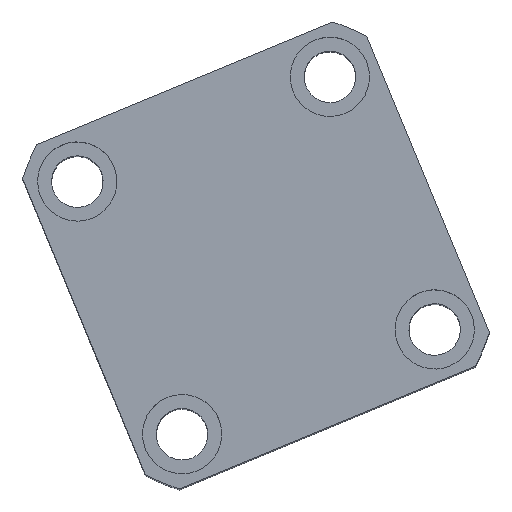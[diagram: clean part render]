
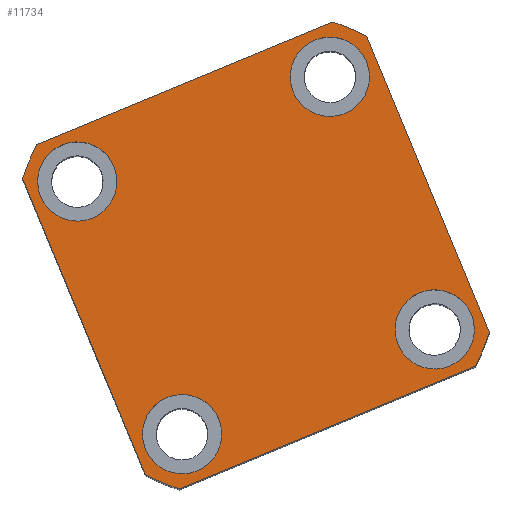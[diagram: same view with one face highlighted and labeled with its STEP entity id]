
A CAD part, top view. The second image highlights one B-rep face of the part: STEP entity #11734.
In plain terms, the highlighted planar face has unit normal (0, 0, 1) as drawn and (0, 0, -1) by its records, which use the part's own axes.
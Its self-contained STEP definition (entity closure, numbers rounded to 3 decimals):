
#9 = AXIS2_PLACEMENT_3D ( 'NONE', #3272, #12859, #4656 ) ;
#246 = CARTESIAN_POINT ( 'NONE',  ( -34.5, -34.5, 0. ) ) ;
#635 = VERTEX_POINT ( 'NONE', #6306 ) ;
#684 = AXIS2_PLACEMENT_3D ( 'NONE', #14733, #6511, #16105 ) ;
#928 = CIRCLE ( 'NONE', #5653, 10. ) ;
#1025 = CARTESIAN_POINT ( 'NONE',  ( 47., 47., 0. ) ) ;
#1203 = CARTESIAN_POINT ( 'NONE',  ( 34.5, -34.5, 0. ) ) ;
#1248 = EDGE_LOOP ( 'NONE', ( #5284, #13037 ) ) ;
#1303 = AXIS2_PLACEMENT_3D ( 'NONE', #1334, #10943, #2723 ) ;
#1334 = CARTESIAN_POINT ( 'NONE',  ( 34.5, 34.5, 0. ) ) ;
#1356 = LINE ( 'NONE', #1671, #7770 ) ;
#1376 = CARTESIAN_POINT ( 'NONE',  ( -44.5, 34.5, 0. ) ) ;
#1390 = AXIS2_PLACEMENT_3D ( 'NONE', #2923, #12508, #4318 ) ;
#1616 = DIRECTION ( 'NONE',  ( -1., 0., 0. ) ) ;
#1671 = CARTESIAN_POINT ( 'NONE',  ( -47., 47., 0. ) ) ;
#1828 = VERTEX_POINT ( 'NONE', #13131 ) ;
#1834 = CARTESIAN_POINT ( 'NONE',  ( 34.5, -34.5, 0. ) ) ;
#1915 = DIRECTION ( 'NONE',  ( 0., 0., -1. ) ) ;
#1972 = ORIENTED_EDGE ( 'NONE', *, *, #12666, .F. ) ;
#2000 = LINE ( 'NONE', #13412, #13872 ) ;
#2003 = DIRECTION ( 'NONE',  ( 0., 0., 1. ) ) ;
#2140 = VERTEX_POINT ( 'NONE', #5214 ) ;
#2311 = CARTESIAN_POINT ( 'NONE',  ( -34.5, 34.5, 0. ) ) ;
#2335 = DIRECTION ( 'NONE',  ( 0., -1., 0. ) ) ;
#2442 = ORIENTED_EDGE ( 'NONE', *, *, #16164, .F. ) ;
#2449 = FACE_BOUND ( 'NONE', #1248, .T. ) ;
#2507 = CIRCLE ( 'NONE', #5567, 10. ) ;
#2595 = DIRECTION ( 'NONE',  ( -1., 0., 0. ) ) ;
#2723 = DIRECTION ( 'NONE',  ( -1., 0., 0. ) ) ;
#2805 = VERTEX_POINT ( 'NONE', #10294 ) ;
#2826 = CARTESIAN_POINT ( 'NONE',  ( 0., 0., 0. ) ) ;
#2853 = CIRCLE ( 'NONE', #684, 62. ) ;
#2923 = CARTESIAN_POINT ( 'NONE',  ( 0., 0., 0. ) ) ;
#2961 = CARTESIAN_POINT ( 'NONE',  ( 34.5, 34.5, 0. ) ) ;
#3202 = EDGE_LOOP ( 'NONE', ( #8339, #1972 ) ) ;
#3209 = DIRECTION ( 'NONE',  ( -1., 0., 0. ) ) ;
#3272 = CARTESIAN_POINT ( 'NONE',  ( 0., 0., 0. ) ) ;
#3640 = CARTESIAN_POINT ( 'NONE',  ( 47., 40.435, 0. ) ) ;
#3690 = DIRECTION ( 'NONE',  ( -1., 0., 0. ) ) ;
#3736 = EDGE_CURVE ( 'NONE', #635, #11108, #10834, .T. ) ;
#4141 = EDGE_CURVE ( 'NONE', #11657, #15720, #5026, .T. ) ;
#4214 = PLANE ( 'NONE',  #17319 ) ;
#4294 = ORIENTED_EDGE ( 'NONE', *, *, #15505, .F. ) ;
#4318 = DIRECTION ( 'NONE',  ( 1., 0., 0. ) ) ;
#4357 = DIRECTION ( 'NONE',  ( -1., 0., 0. ) ) ;
#4499 = EDGE_CURVE ( 'NONE', #5078, #10481, #10599, .T. ) ;
#4584 = VECTOR ( 'NONE', #17358, 1000. ) ;
#4656 = DIRECTION ( 'NONE',  ( 1., 0., 0. ) ) ;
#4743 = ORIENTED_EDGE ( 'NONE', *, *, #5624, .F. ) ;
#4895 = CARTESIAN_POINT ( 'NONE',  ( 40.435, -47., 0. ) ) ;
#5026 = CIRCLE ( 'NONE', #12840, 10. ) ;
#5078 = VERTEX_POINT ( 'NONE', #5820 ) ;
#5214 = CARTESIAN_POINT ( 'NONE',  ( 24.5, 34.5, 0. ) ) ;
#5219 = CARTESIAN_POINT ( 'NONE',  ( -24.5, 34.5, 0. ) ) ;
#5284 = ORIENTED_EDGE ( 'NONE', *, *, #17632, .F. ) ;
#5567 = AXIS2_PLACEMENT_3D ( 'NONE', #1834, #11426, #3209 ) ;
#5580 = DIRECTION ( 'NONE',  ( 1., 0., 0. ) ) ;
#5624 = EDGE_CURVE ( 'NONE', #2140, #6914, #14022, .T. ) ;
#5642 = ORIENTED_EDGE ( 'NONE', *, *, #8052, .F. ) ;
#5653 = AXIS2_PLACEMENT_3D ( 'NONE', #10130, #1915, #11508 ) ;
#5668 = FACE_BOUND ( 'NONE', #3202, .T. ) ;
#5820 = CARTESIAN_POINT ( 'NONE',  ( 44.5, -34.5, 0. ) ) ;
#6038 = EDGE_CURVE ( 'NONE', #11726, #2805, #1356, .T. ) ;
#6126 = CARTESIAN_POINT ( 'NONE',  ( -47., -47., 0. ) ) ;
#6306 = CARTESIAN_POINT ( 'NONE',  ( -24.5, -34.5, 0. ) ) ;
#6500 = ORIENTED_EDGE ( 'NONE', *, *, #9911, .F. ) ;
#6511 = DIRECTION ( 'NONE',  ( 0., 0., 1. ) ) ;
#6538 = CARTESIAN_POINT ( 'NONE',  ( -34.5, -34.5, 0. ) ) ;
#6619 = VERTEX_POINT ( 'NONE', #3640 ) ;
#6823 = EDGE_LOOP ( 'NONE', ( #2442, #12832 ) ) ;
#6914 = VERTEX_POINT ( 'NONE', #17674 ) ;
#7635 = AXIS2_PLACEMENT_3D ( 'NONE', #6538, #16129, #7910 ) ;
#7770 = VECTOR ( 'NONE', #11270, 1000. ) ;
#7879 = AXIS2_PLACEMENT_3D ( 'NONE', #1203, #10806, #2595 ) ;
#7893 = VERTEX_POINT ( 'NONE', #11811 ) ;
#7910 = DIRECTION ( 'NONE',  ( -1., 0., 0. ) ) ;
#8032 = CARTESIAN_POINT ( 'NONE',  ( -40.435, -47., 0. ) ) ;
#8052 = EDGE_CURVE ( 'NONE', #1828, #13273, #2853, .T. ) ;
#8099 = CARTESIAN_POINT ( 'NONE',  ( -44.5, -34.5, 0. ) ) ;
#8155 = EDGE_CURVE ( 'NONE', #10322, #1828, #2000, .T. ) ;
#8241 = ORIENTED_EDGE ( 'NONE', *, *, #11769, .F. ) ;
#8339 = ORIENTED_EDGE ( 'NONE', *, *, #4141, .F. ) ;
#8588 = EDGE_LOOP ( 'NONE', ( #4743, #17129 ) ) ;
#8681 = ORIENTED_EDGE ( 'NONE', *, *, #10180, .F. ) ;
#8797 = ORIENTED_EDGE ( 'NONE', *, *, #6038, .F. ) ;
#8878 = FACE_OUTER_BOUND ( 'NONE', #12803, .T. ) ;
#9076 = LINE ( 'NONE', #6126, #12729 ) ;
#9410 = EDGE_CURVE ( 'NONE', #6619, #11726, #17624, .T. ) ;
#9836 = DIRECTION ( 'NONE',  ( 0., 0., -1. ) ) ;
#9911 = EDGE_CURVE ( 'NONE', #13273, #10726, #9076, .T. ) ;
#10130 = CARTESIAN_POINT ( 'NONE',  ( -34.5, 34.5, 0. ) ) ;
#10180 = EDGE_CURVE ( 'NONE', #7893, #6619, #15081, .T. ) ;
#10205 = CARTESIAN_POINT ( 'NONE',  ( 0., 0., 0. ) ) ;
#10294 = CARTESIAN_POINT ( 'NONE',  ( -40.435, 47., 0. ) ) ;
#10322 = VERTEX_POINT ( 'NONE', #17532 ) ;
#10481 = VERTEX_POINT ( 'NONE', #16417 ) ;
#10599 = CIRCLE ( 'NONE', #7879, 10. ) ;
#10726 = VERTEX_POINT ( 'NONE', #4895 ) ;
#10806 = DIRECTION ( 'NONE',  ( 0., 0., -1. ) ) ;
#10834 = CIRCLE ( 'NONE', #13790, 10. ) ;
#10943 = DIRECTION ( 'NONE',  ( 0., 0., -1. ) ) ;
#11108 = VERTEX_POINT ( 'NONE', #8099 ) ;
#11248 = AXIS2_PLACEMENT_3D ( 'NONE', #2961, #12553, #4357 ) ;
#11270 = DIRECTION ( 'NONE',  ( -1., 0., 0. ) ) ;
#11426 = DIRECTION ( 'NONE',  ( 0., 0., -1. ) ) ;
#11508 = DIRECTION ( 'NONE',  ( -1., 0., 0. ) ) ;
#11592 = DIRECTION ( 'NONE',  ( 1., 0., 0. ) ) ;
#11657 = VERTEX_POINT ( 'NONE', #1376 ) ;
#11726 = VERTEX_POINT ( 'NONE', #12409 ) ;
#11734 = ADVANCED_FACE ( 'NONE', ( #16162, #2449, #5668, #12529, #8878 ), #4214, .F. ) ;
#11769 = EDGE_CURVE ( 'NONE', #2805, #10322, #15749, .T. ) ;
#11811 = CARTESIAN_POINT ( 'NONE',  ( 47., -40.435, 0. ) ) ;
#11894 = DIRECTION ( 'NONE',  ( 0., 0., -1. ) ) ;
#12034 = ORIENTED_EDGE ( 'NONE', *, *, #8155, .F. ) ;
#12409 = CARTESIAN_POINT ( 'NONE',  ( 40.435, 47., 0. ) ) ;
#12508 = DIRECTION ( 'NONE',  ( 0., 0., 1. ) ) ;
#12529 = FACE_BOUND ( 'NONE', #8588, .T. ) ;
#12553 = DIRECTION ( 'NONE',  ( 0., 0., -1. ) ) ;
#12666 = EDGE_CURVE ( 'NONE', #15720, #11657, #928, .T. ) ;
#12729 = VECTOR ( 'NONE', #14344, 1000. ) ;
#12803 = EDGE_LOOP ( 'NONE', ( #16412, #8681, #4294, #6500, #5642, #12034, #8241, #8797 ) ) ;
#12832 = ORIENTED_EDGE ( 'NONE', *, *, #4499, .F. ) ;
#12840 = AXIS2_PLACEMENT_3D ( 'NONE', #2311, #11894, #3690 ) ;
#12859 = DIRECTION ( 'NONE',  ( 0., 0., 1. ) ) ;
#13037 = ORIENTED_EDGE ( 'NONE', *, *, #3736, .F. ) ;
#13131 = CARTESIAN_POINT ( 'NONE',  ( -47., -40.435, 0. ) ) ;
#13273 = VERTEX_POINT ( 'NONE', #8032 ) ;
#13412 = CARTESIAN_POINT ( 'NONE',  ( -47., 47., 0. ) ) ;
#13417 = CIRCLE ( 'NONE', #7635, 10. ) ;
#13660 = CIRCLE ( 'NONE', #1303, 10. ) ;
#13777 = DIRECTION ( 'NONE',  ( 0., 0., 1. ) ) ;
#13790 = AXIS2_PLACEMENT_3D ( 'NONE', #246, #9836, #1616 ) ;
#13872 = VECTOR ( 'NONE', #2335, 1000. ) ;
#14022 = CIRCLE ( 'NONE', #11248, 10. ) ;
#14344 = DIRECTION ( 'NONE',  ( 1., 0., 0. ) ) ;
#14733 = CARTESIAN_POINT ( 'NONE',  ( 0., 0., 0. ) ) ;
#14924 = EDGE_CURVE ( 'NONE', #6914, #2140, #13660, .T. ) ;
#15081 = LINE ( 'NONE', #1025, #4584 ) ;
#15163 = CIRCLE ( 'NONE', #16929, 62. ) ;
#15505 = EDGE_CURVE ( 'NONE', #10726, #7893, #15163, .T. ) ;
#15720 = VERTEX_POINT ( 'NONE', #5219 ) ;
#15749 = CIRCLE ( 'NONE', #1390, 62. ) ;
#16105 = DIRECTION ( 'NONE',  ( 1., 0., 0. ) ) ;
#16129 = DIRECTION ( 'NONE',  ( 0., 0., -1. ) ) ;
#16162 = FACE_BOUND ( 'NONE', #6823, .T. ) ;
#16164 = EDGE_CURVE ( 'NONE', #10481, #5078, #2507, .T. ) ;
#16412 = ORIENTED_EDGE ( 'NONE', *, *, #9410, .F. ) ;
#16417 = CARTESIAN_POINT ( 'NONE',  ( 24.5, -34.5, 0. ) ) ;
#16929 = AXIS2_PLACEMENT_3D ( 'NONE', #10205, #2003, #11592 ) ;
#17129 = ORIENTED_EDGE ( 'NONE', *, *, #14924, .F. ) ;
#17319 = AXIS2_PLACEMENT_3D ( 'NONE', #2826, #13777, #5580 ) ;
#17358 = DIRECTION ( 'NONE',  ( 0., 1., 0. ) ) ;
#17532 = CARTESIAN_POINT ( 'NONE',  ( -47., 40.435, 0. ) ) ;
#17624 = CIRCLE ( 'NONE', #9, 62. ) ;
#17632 = EDGE_CURVE ( 'NONE', #11108, #635, #13417, .T. ) ;
#17674 = CARTESIAN_POINT ( 'NONE',  ( 44.5, 34.5, 0. ) ) ;
